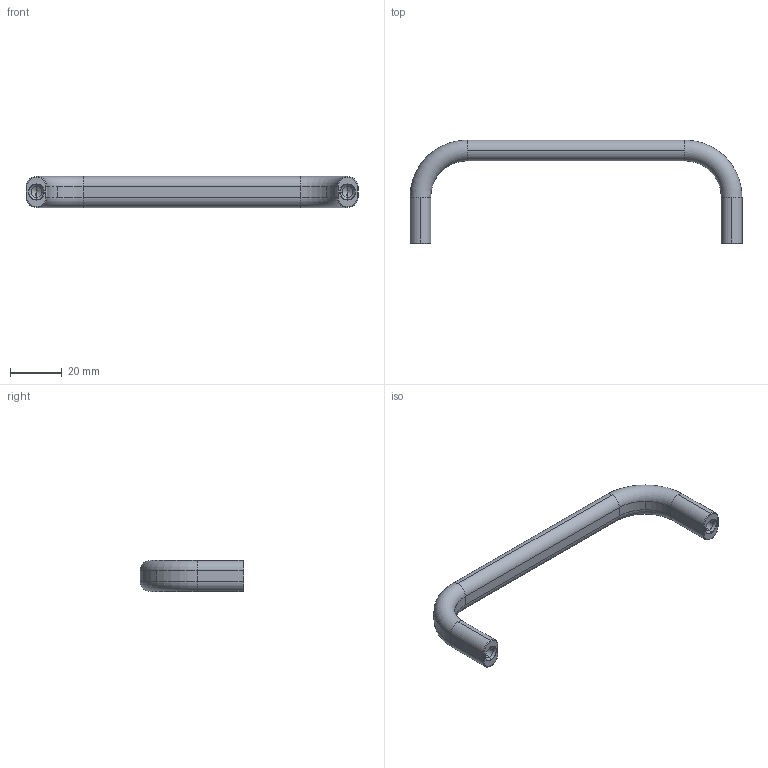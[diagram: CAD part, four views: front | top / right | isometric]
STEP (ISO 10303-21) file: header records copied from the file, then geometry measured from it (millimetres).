
FILE_DESCRIPTION((''),'2;1');
FILE_NAME('c:\wix\Knobs\7892\7892.W012.stp','2003-04-04T16:41:51',('joanc'),(''),'Autodesk Inventor (tm) 5.3','Autodesk Inventor (tm) 5.3','');
FILE_SCHEMA(('CONFIG_CONTROL_DESIGN'));
Length unit declared in the file: millimetre
Products named in the file (1): 7892.W012
Bounding box: 128 x 40 x 12 mm (x, y, z)
Volume: 14110.7 mm3; surface area: 6367.2 mm2
Topology: 1 solids, 1 shells, 68 faces, 154 edges, 86 vertices
Faces by surface type: cylinder 32, torus 16, cone 12, plane 8
Entity records: 1965 total; most frequent: DIRECTION 380, CARTESIAN_POINT 305, ORIENTED_EDGE 300, AXIS2_PLACEMENT_3D 161, EDGE_CURVE 150, CIRCLE 92, VERTEX_POINT 86, EDGE_LOOP 70
